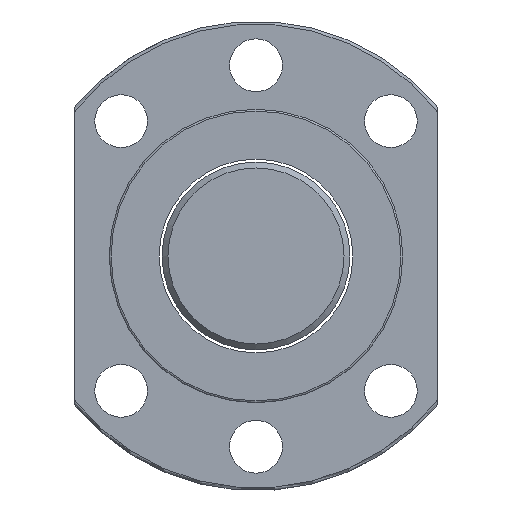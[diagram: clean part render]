
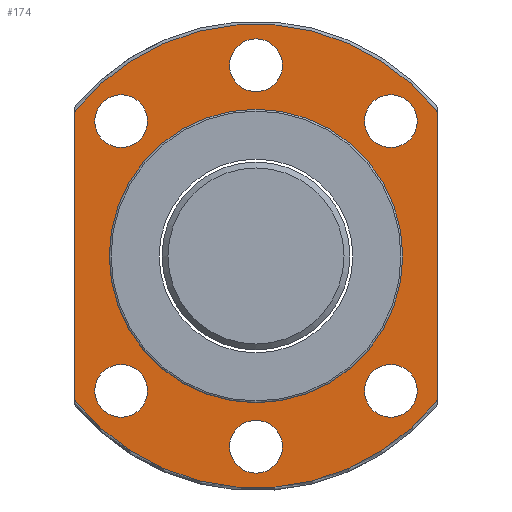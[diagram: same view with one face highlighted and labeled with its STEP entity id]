
A CAD part, left-side view. The second image highlights one B-rep face of the part: STEP entity #174.
In plain terms, the highlighted planar face has unit normal (-1, 0, 0).
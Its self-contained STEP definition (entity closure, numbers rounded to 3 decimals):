
#101=PLANE('',#518);
#109=FACE_BOUND('',#223,.T.);
#110=FACE_BOUND('',#224,.T.);
#111=FACE_BOUND('',#225,.T.);
#112=FACE_BOUND('',#226,.T.);
#113=FACE_BOUND('',#227,.T.);
#114=FACE_BOUND('',#228,.T.);
#115=FACE_BOUND('',#229,.T.);
#149=LINE('',#790,#154);
#150=LINE('',#792,#155);
#154=VECTOR('',#577,1.);
#155=VECTOR('',#578,1.);
#174=ADVANCED_FACE('',(#206,#109,#110,#111,#112,#113,#114,#115),#101,.T.);
#206=FACE_OUTER_BOUND('',#222,.T.);
#222=EDGE_LOOP('',(#318,#319,#320,#321));
#223=EDGE_LOOP('',(#322));
#224=EDGE_LOOP('',(#323));
#225=EDGE_LOOP('',(#324));
#226=EDGE_LOOP('',(#325));
#227=EDGE_LOOP('',(#326));
#228=EDGE_LOOP('',(#327));
#229=EDGE_LOOP('',(#328));
#278=CIRCLE('',#508,39.5);
#279=CIRCLE('',#510,39.5);
#280=CIRCLE('',#511,25.);
#281=CIRCLE('',#512,4.5);
#282=CIRCLE('',#513,4.5);
#283=CIRCLE('',#514,4.5);
#284=CIRCLE('',#515,4.5);
#285=CIRCLE('',#516,4.5);
#286=CIRCLE('',#517,4.5);
#318=ORIENTED_EDGE('',*,*,#452,.F.);
#319=ORIENTED_EDGE('',*,*,#451,.F.);
#320=ORIENTED_EDGE('',*,*,#453,.T.);
#321=ORIENTED_EDGE('',*,*,#454,.F.);
#322=ORIENTED_EDGE('',*,*,#455,.T.);
#323=ORIENTED_EDGE('',*,*,#456,.F.);
#324=ORIENTED_EDGE('',*,*,#457,.F.);
#325=ORIENTED_EDGE('',*,*,#458,.F.);
#326=ORIENTED_EDGE('',*,*,#459,.F.);
#327=ORIENTED_EDGE('',*,*,#460,.F.);
#328=ORIENTED_EDGE('',*,*,#461,.F.);
#408=VERTEX_POINT('',#767);
#409=VERTEX_POINT('',#787);
#410=VERTEX_POINT('',#791);
#411=VERTEX_POINT('',#793);
#412=VERTEX_POINT('',#796);
#413=VERTEX_POINT('',#798);
#414=VERTEX_POINT('',#800);
#415=VERTEX_POINT('',#802);
#416=VERTEX_POINT('',#804);
#417=VERTEX_POINT('',#806);
#418=VERTEX_POINT('',#808);
#451=EDGE_CURVE('',#409,#408,#278,.T.);
#452=EDGE_CURVE('',#408,#410,#149,.T.);
#453=EDGE_CURVE('',#409,#411,#150,.T.);
#454=EDGE_CURVE('',#410,#411,#279,.T.);
#455=EDGE_CURVE('',#412,#412,#280,.T.);
#456=EDGE_CURVE('',#413,#413,#281,.T.);
#457=EDGE_CURVE('',#414,#414,#282,.T.);
#458=EDGE_CURVE('',#415,#415,#283,.T.);
#459=EDGE_CURVE('',#416,#416,#284,.T.);
#460=EDGE_CURVE('',#417,#417,#285,.T.);
#461=EDGE_CURVE('',#418,#418,#286,.T.);
#508=AXIS2_PLACEMENT_3D('',#788,#573,#574);
#510=AXIS2_PLACEMENT_3D('',#794,#579,#580);
#511=AXIS2_PLACEMENT_3D('',#795,#581,#582);
#512=AXIS2_PLACEMENT_3D('',#797,#583,#584);
#513=AXIS2_PLACEMENT_3D('',#799,#585,#586);
#514=AXIS2_PLACEMENT_3D('',#801,#587,#588);
#515=AXIS2_PLACEMENT_3D('',#803,#589,#590);
#516=AXIS2_PLACEMENT_3D('',#805,#591,#592);
#517=AXIS2_PLACEMENT_3D('',#807,#593,#594);
#518=AXIS2_PLACEMENT_3D('',#809,#595,#596);
#573=DIRECTION('',(1.,0.,0.));
#574=DIRECTION('',(0.,1.,0.));
#577=DIRECTION('',(0.,0.,1.));
#578=DIRECTION('',(0.,0.,1.));
#579=DIRECTION('',(1.,0.,0.));
#580=DIRECTION('',(0.,1.,0.));
#581=DIRECTION('',(1.,0.,0.));
#582=DIRECTION('',(0.,1.,0.));
#583=DIRECTION('',(-1.,0.,0.));
#584=DIRECTION('',(0.,-1.,0.));
#585=DIRECTION('',(-1.,0.,0.));
#586=DIRECTION('',(0.,-1.,0.));
#587=DIRECTION('',(-1.,0.,0.));
#588=DIRECTION('',(0.,-1.,0.));
#589=DIRECTION('',(-1.,0.,0.));
#590=DIRECTION('',(0.,-1.,0.));
#591=DIRECTION('',(-1.,0.,0.));
#592=DIRECTION('',(0.,-1.,0.));
#593=DIRECTION('',(-1.,0.,0.));
#594=DIRECTION('',(0.,-1.,0.));
#595=DIRECTION('',(-1.,0.,0.));
#596=DIRECTION('',(0.,-1.,0.));
#767=CARTESIAN_POINT('',(-31.893,31.,-24.48));
#787=CARTESIAN_POINT('',(-31.893,-31.,-24.48));
#788=CARTESIAN_POINT('',(-31.893,0.,0.));
#790=CARTESIAN_POINT('',(-31.893,31.,0.));
#791=CARTESIAN_POINT('',(-31.893,31.,24.48));
#792=CARTESIAN_POINT('',(-31.893,-31.,0.));
#793=CARTESIAN_POINT('',(-31.893,-31.,24.48));
#794=CARTESIAN_POINT('',(-31.893,0.,0.));
#795=CARTESIAN_POINT('',(-31.893,0.,0.));
#796=CARTESIAN_POINT('',(-31.893,25.,0.));
#797=CARTESIAN_POINT('',(-31.893,22.981,22.981));
#798=CARTESIAN_POINT('',(-31.893,18.481,22.981));
#799=CARTESIAN_POINT('',(-31.893,-22.981,22.981));
#800=CARTESIAN_POINT('',(-31.893,-27.481,22.981));
#801=CARTESIAN_POINT('',(-31.893,-22.981,-22.981));
#802=CARTESIAN_POINT('',(-31.893,-27.481,-22.981));
#803=CARTESIAN_POINT('',(-31.893,22.981,-22.981));
#804=CARTESIAN_POINT('',(-31.893,18.481,-22.981));
#805=CARTESIAN_POINT('',(-31.893,0.,32.5));
#806=CARTESIAN_POINT('',(-31.893,-4.5,32.5));
#807=CARTESIAN_POINT('',(-31.893,0.,-32.5));
#808=CARTESIAN_POINT('',(-31.893,-4.5,-32.5));
#809=CARTESIAN_POINT('',(-31.893,32.25,0.));
